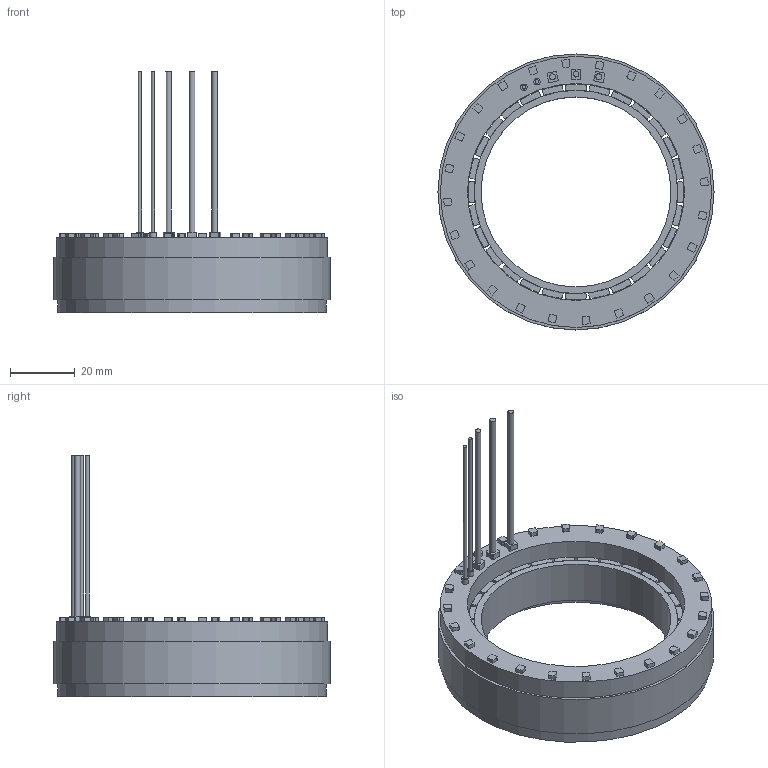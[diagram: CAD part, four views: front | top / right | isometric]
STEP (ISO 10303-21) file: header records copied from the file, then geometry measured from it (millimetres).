
FILE_DESCRIPTION( ('This file contains a STEP AP42 implementation' ,'as created by ZW3D STEP Interface translator.') ,'2;1' );
FILE_NAME( '8513.stp' ,'26 3 2.161129', (''), ('ZWCAD Software Co.'), 'Version 1.0', 'ZW3D to STEP translator', '' );
FILE_SCHEMA(('AUTOMOTIVE_DESIGN { 1 0 10303 214 1 1 1 1 }'));
Length unit declared in the file: millimetre
Products named in the file (4): 0; 8513; 8513隅赽; 8513蛌赽
Assembly tree (2 placements, depth 2):
  0
  8513
    8513隅赽
    8513蛌赽
Bounding box: 85 x 85 x 74.3 mm (x, y, z)
Volume: 57653.7 mm3; surface area: 36888.1 mm2
Topology: 32 solids, 32 shells, 505 faces, 1508 edges, 1440 vertices
Faces by surface type: cylinder 267, plane 238
Full cylindrical faces by diameter (mm): 1.1 x2, 1.78 x3, 2 x2, 58.5 x1, 62.6 x1, 66.8 x3, 82.6 x1, 83.5 x1, 85 x1
Entity records: 17974 total; most frequent: DIRECTION 3297, CARTESIAN_POINT 2893, ORIENTED_EDGE 2442, AXIS2_PLACEMENT_3D 1277, EDGE_CURVE 1221, VERTEX_POINT 814, CIRCLE 765, VECTOR 743
